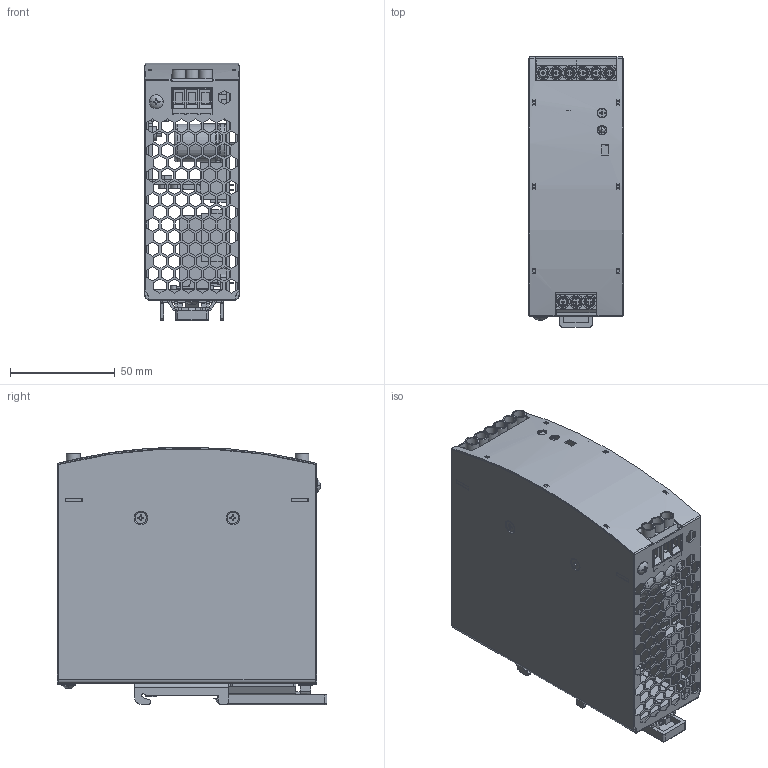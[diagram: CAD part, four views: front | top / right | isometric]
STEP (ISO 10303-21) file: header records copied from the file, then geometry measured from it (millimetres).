
FILE_DESCRIPTION((''),'2;1');
FILE_NAME('DG-U120S24','2022-08-18T15:14:40',('pd071'),(''),'CREO PARAMETRIC BY PTC INC, 2017260','CREO PARAMETRIC BY PTC INC, 2017260','');
FILE_SCHEMA(('CONFIG_CONTROL_DESIGN','SHAPE_APPEARANCE_LAYERS_GROUPS'));
Products named in the file (1): DG-U120S24
Bounding box: 45 x 128.9 x 123.16 mm (x, y, z)
Surface area: 193786.7 mm2 (no closed solid volume)
Topology: 0 solids, 113 shells, 3063 faces, 9723 edges, 6695 vertices
Faces by surface type: plane 2573, cylinder 398, cone 42, torus 28, bspline 12, sphere 8, revolution 2
Entity records: 126139 total; most frequent: CARTESIAN_POINT 20687, DIRECTION 17666, ORIENTED_EDGE 17355, EDGE_CURVE 9723, VECTOR 7788, LINE 7788, VERTEX_POINT 6695, AXIS2_PLACEMENT_3D 4938
